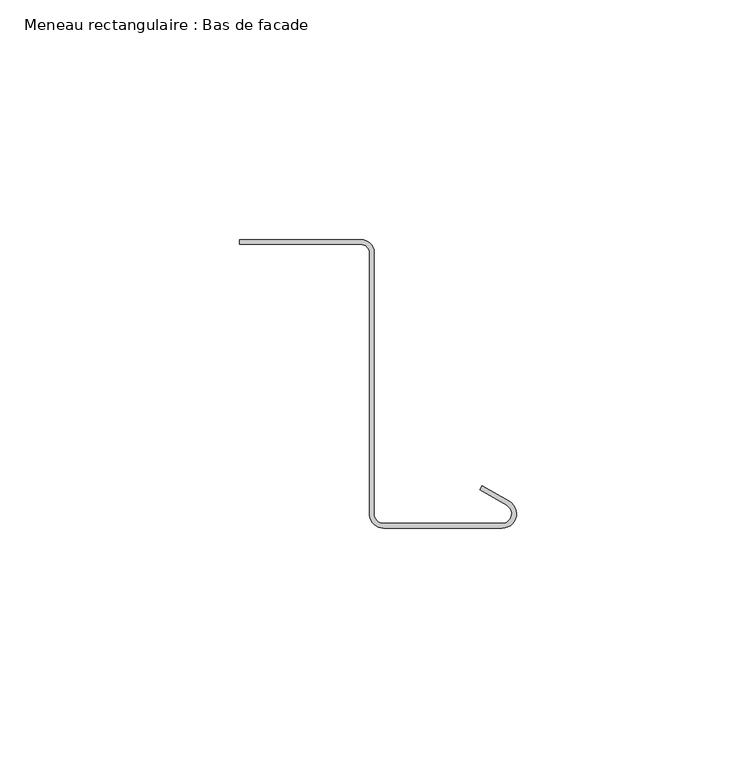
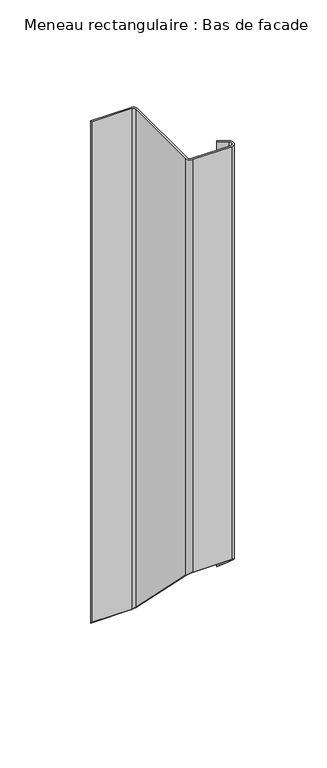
"""IFC4 building model written with IfcOpenShell, lengths in millimetres: member geometry, Meneau rectangulaire : Bas de facade."""

import ifcopenshell
import ifcopenshell.guid

model = None  # the IFC model being written
_history = None  # IfcOwnerHistory: only IFC2X3 demands one
_inside = {}  # id of a spatial element -> (the spatial element, [elements in it])
_under = {}  # id of a project, library or spatial element -> (it, [spatial elements below it])
_declared = {}  # id of a project -> (the project, [libraries it declares])
_typed = {}  # id of a type object -> (the type object, [elements of that type])
_made_of = {}  # id of a material, layer set ... -> (it, [elements and type objects made of it])


def new_model(schema):
    """Start an empty IFC model of exactly this schema.

    Asked for "IFC4X3", IfcOpenShell would pick the latest addendum, in which some entities
    have other attributes; the version numbers below select the first issue.
    IFC2X3 requires an IfcOwnerHistory on every rooted entity: one is made here for all.
    """
    global model, _history
    if schema == "IFC4X3":
        model = ifcopenshell.file(schema_version=(4, 3, 0, 0))
    else:
        model = ifcopenshell.file(schema=schema)
    _inside.clear()
    _under.clear()
    _declared.clear()
    _typed.clear()
    _made_of.clear()
    _history = None
    if model.schema == "IFC2X3":
        org = make("IfcOrganization", Name="unknown")
        user = make(
            "IfcPersonAndOrganization",
            ThePerson=make("IfcPerson", FamilyName="unknown"),
            TheOrganization=org,
        )
        app = make(
            "IfcApplication",
            ApplicationDeveloper=org,
            Version="unknown",
            ApplicationFullName="unknown",
            ApplicationIdentifier="unknown",
        )
        _history = make(
            "IfcOwnerHistory",
            OwningUser=user,
            OwningApplication=app,
            ChangeAction="ADDED",
            CreationDate=0,
        )
    return model


def make(cls, **values):
    """One entity of the class cls with the attributes given. An attribute that is None is left unset."""
    return model.create_entity(
        cls, **{name: value for name, value in values.items() if value is not None}
    )


def rooted(cls, **values):
    """An entity with a GlobalId (a new one), such as an element, a storey or a relation."""
    return make(cls, GlobalId=ifcopenshell.guid.new(), OwnerHistory=_history, **values)


def si_unit(unit_type, name, prefix=None):
    """IfcSIUnit, for example si_unit("LENGTHUNIT", "METRE", prefix="MILLI")."""
    return make("IfcSIUnit", UnitType=unit_type, Prefix=prefix, Name=name)


def assignment(units):
    """IfcUnitAssignment: the units of a project."""
    return None if units is None else make("IfcUnitAssignment", Units=units)


def point(xyz):
    """IfcCartesianPoint."""
    return None if xyz is None else make("IfcCartesianPoint", Coordinates=xyz)


def direction(xyz):
    """IfcDirection."""
    return None if xyz is None else make("IfcDirection", DirectionRatios=xyz)


def frame(location, z_axis=None, x_axis=None):
    """IfcAxis2Placement3D, a coordinate frame: its origin and axes. An axis left out is left unset."""
    return make(
        "IfcAxis2Placement3D",
        Location=point(location),
        Axis=direction(z_axis),
        RefDirection=direction(x_axis),
    )


def origin():
    """The frame at (0, 0, 0) with its axes left unset."""
    return frame((0.0, 0.0, 0.0))


def place(relative_to, where):
    """IfcLocalPlacement: puts the frame where relative to a parent placement (None: the world)."""
    return make(
        "IfcLocalPlacement", PlacementRelTo=relative_to, RelativePlacement=where
    )


def context(
    kind, dimensions, precision=None, world=None, true_north=None, identifier=None
):
    """IfcGeometricRepresentationContext, for example the 3D "Model" context."""
    return make(
        "IfcGeometricRepresentationContext",
        ContextIdentifier=identifier,
        ContextType=kind,
        CoordinateSpaceDimension=dimensions,
        Precision=precision,
        WorldCoordinateSystem=world,
        TrueNorth=true_north,
    )


def project(units=None, contexts=None):
    """IfcProject with its units and contexts."""
    return rooted(
        "IfcProject",
        Name="project",
        RepresentationContexts=contexts,
        UnitsInContext=assignment(units),
    )


def spatial(cls, under=None, at=None, **own):
    """A site, building, storey or space (cls), placed at a placement, below another one or the project."""
    s = rooted(cls, ObjectPlacement=at, **own)
    if under is not None:
        _under.setdefault(under.id(), (under, []))[1].append(s)
    return s


def polyline(points):
    """IfcPolyline through the points."""
    return make("IfcPolyline", Points=[point(p) for p in points])


def circle_curve(where, radius):
    """IfcCircle in the frame where."""
    return make("IfcCircle", Position=where, Radius=radius)


def ellipse_curve(where, semi_axis1, semi_axis2):
    """IfcEllipse in the frame where."""
    return make(
        "IfcEllipse", Position=where, SemiAxis1=semi_axis1, SemiAxis2=semi_axis2
    )


def shape(context_of_items, identifier, shape_type, items):
    """IfcShapeRepresentation: the items that make up one representation, for example the "Body"."""
    return make(
        "IfcShapeRepresentation",
        ContextOfItems=context_of_items,
        RepresentationIdentifier=identifier,
        RepresentationType=shape_type,
        Items=items,
    )


def source(mapping_origin, context_of_items, identifier, shape_type, items):
    """IfcRepresentationMap: a shape defined once, which mapped items show again and again."""
    return make(
        "IfcRepresentationMap",
        MappingOrigin=mapping_origin,
        MappedRepresentation=shape(context_of_items, identifier, shape_type, items),
    )


def transform(
    local_origin,
    x_axis=None,
    y_axis=None,
    z_axis=None,
    scale=None,
    scale2=None,
    scale3=None,
    uniform=True,
):
    """IfcCartesianTransformationOperator3D, or its non-uniform kind. x_axis, y_axis, z_axis: its Axis1, 2, 3."""
    if uniform:
        return make(
            "IfcCartesianTransformationOperator3D",
            Axis1=direction(x_axis),
            Axis2=direction(y_axis),
            LocalOrigin=point(local_origin),
            Scale=scale,
            Axis3=direction(z_axis),
        )
    return make(
        "IfcCartesianTransformationOperator3DnonUniform",
        Axis1=direction(x_axis),
        Axis2=direction(y_axis),
        LocalOrigin=point(local_origin),
        Scale=scale,
        Axis3=direction(z_axis),
        Scale2=scale2,
        Scale3=scale3,
    )


def mapped(mapping_source, mapping_target):
    """IfcMappedItem: shows the shape of a source again, moved by a transform."""
    return make(
        "IfcMappedItem", MappingSource=mapping_source, MappingTarget=mapping_target
    )


def made_of(thing, what):
    """Note that an element or type object is made of a material, layer set ...; save() writes the relation."""
    if what is not None:
        _made_of.setdefault(what.id(), (what, []))[1].append(thing)
    return thing


def element(
    cls,
    number,
    at=None,
    inside=None,
    cuts=None,
    type_object=None,
    material=None,
    context=None,
    identifier="Body",
    shape_type=None,
    held_by="IfcProductDefinitionShape",
    body=None,
    shapes=None,
    **own,
):
    """One element of the class cls, such as IfcWall. Its Tag is "e" and its number.

    at: its placement. inside: the storey or other place that contains it. cuts: it is an
    opening in that element (IfcRelVoidsElement). A single representation is given by context,
    identifier, shape_type and body (its items); several are given by shapes. held_by: the class
    of the entity that holds the representations. save() writes the other relations.
    """
    e = rooted(cls, Tag="e%d" % number, ObjectPlacement=at, **own)
    if body is not None:
        shapes = [shape(context, identifier, shape_type, body)]
    if shapes is not None:
        e.Representation = make(held_by, Representations=shapes)
    if inside is not None:
        _inside.setdefault(inside.id(), (inside, []))[1].append(e)
    if cuts is not None:
        rooted(
            "IfcRelVoidsElement", RelatingBuildingElement=cuts, RelatedOpeningElement=e
        )
    if type_object is not None:
        _typed.setdefault(type_object.id(), (type_object, []))[1].append(e)
    return made_of(e, material)


def aggregate(whole, parts):
    """IfcRelAggregates: a whole, such as a stair, and the parts it consists of."""
    return rooted("IfcRelAggregates", RelatingObject=whole, RelatedObjects=parts)


def save(model, path):
    """Write the relations noted so far, then the file.

    IfcRelAggregates (storeys below a building ...), IfcRelContainedInSpatialStructure (elements
    in a storey), IfcRelDefinesByType, IfcRelAssociatesMaterial and IfcRelDeclares: one each for
    every whole, place, type object, material and project.
    """
    for whole, parts in _under.values():
        aggregate(whole, parts)
    for where, things in _inside.values():
        rooted(
            "IfcRelContainedInSpatialStructure",
            RelatedElements=things,
            RelatingStructure=where,
        )
    for kind, things in _typed.values():
        rooted("IfcRelDefinesByType", RelatedObjects=things, RelatingType=kind)
    for what, things in _made_of.values():
        rooted("IfcRelAssociatesMaterial", RelatedObjects=things, RelatingMaterial=what)
    for by, libraries in _declared.values():
        rooted("IfcRelDeclares", RelatingContext=by, RelatedDefinitions=libraries)
    model.write(path)


def plane_surface(at):
    """IfcPlane: the flat surface through the origin of the frame at, square to its z axis."""
    return make("IfcPlane", Position=at)


def cylinder_surface(at, radius):
    """IfcCylindricalSurface: all points at the distance radius from the z axis of the frame at."""
    return make("IfcCylindricalSurface", Position=at, Radius=radius)


def revolved_surface(curve, axis_point, axis_direction):
    """IfcSurfaceOfRevolution: the curve turned about the line through axis_point along axis_direction."""
    return make(
        "IfcSurfaceOfRevolution",
        SweptCurve=make("IfcArbitraryOpenProfileDef", ProfileType="CURVE", Curve=curve),
        AxisPosition=make("IfcAxis1Placement", Location=point(axis_point), Axis=direction(axis_direction)),
    )


def advanced_brep(points, edges, surfaces, faces):
    """IfcAdvancedBrep: a solid bounded by faces that lie on surfaces and meet in shared edges.

    An edge is (start, end): straight between two places in points (the first is 0);
    or (start, end, curve); or (start, end, curve, False) where it runs against its curve.
    A face is (place in surfaces, loops), or (place, loops, False) where it looks against
    its surface's normal. A loop lists edges by number (the first is 1), with a minus sign
    where the edge is run from its end to its start. The first loop is the outer one.
    """
    corners = [point(p) for p in points]
    vertices = [make("IfcVertexPoint", VertexGeometry=c) for c in corners]
    made = []
    for start, end, *more in edges:
        made.append(
            make(
                "IfcEdgeCurve",
                EdgeStart=vertices[start],
                EdgeEnd=vertices[end],
                EdgeGeometry=more[0] if more else make("IfcPolyline", Points=[corners[start], corners[end]]),
                SameSense=more[1] if len(more) > 1 else True,
            )
        )
    hull = []
    for where, loops, *sense in faces:
        bounds = []
        for j, loop in enumerate(loops):
            ring = [make("IfcOrientedEdge", EdgeElement=made[abs(k) - 1], Orientation=k > 0) for k in loop]
            bounds.append(
                make(
                    "IfcFaceOuterBound" if j == 0 else "IfcFaceBound",
                    Bound=make("IfcEdgeLoop", EdgeList=ring),
                    Orientation=True,
                )
            )
        hull.append(make("IfcAdvancedFace", Bounds=bounds, FaceSurface=surfaces[where], SameSense=sense[0] if sense else True))
    return make("IfcAdvancedBrep", Outer=make("IfcClosedShell", CfsFaces=hull))


def meneau_rectangulaire_bas_de_facade_49befa15(model_context):
    return source(origin(), model_context, "Body", "AdvancedBrep", [
        advanced_brep(
        [(-32.4584179, 2.9588923, 0.0), (-57.8548383, 2.9588923, 0.0), (-57.8548383, 1.9588923, 0.0), (-32.4584179, 1.9588923, 0.0), (-30.7239521, 0.4415475, 0.0), (-30.7239521, -54.522067, 0.0), (-27.735368, -57.2605998, 0.0), (-3.0, -57.2605998, 0.0), (-1.5, -51.6625235, 0.0), (-7.1638061, -48.3925235, 0.0), (-7.6638061, -49.258549, 0.0), (-2.0, -52.528549, 0.0), (-3.0, -56.2605998, 0.0), (-27.735368, -56.2605998, 0.0), (-29.7143802, -54.5495817, 0.0), (-29.7143802, 0.3898824, 0.0), (-32.4584179, 2.9588923, -337.9588923), (-57.8548383, 2.9588923, -337.9588923), (-57.8548383, 1.9588923, -336.9588923), (-32.4584179, 1.9588923, -336.9588923), (-30.7239521, 0.4415475, -335.4415475), (-30.7239521, -54.522067, -280.477933), (-27.735368, -57.2605998, -277.7394002), (-3.0, -57.2605998, -277.7394002), (-1.5, -51.6625235, -283.3374765), (-7.1638061, -48.3925235, -286.6074765), (-7.6638061, -49.258549, -285.741451), (-2.0, -52.528549, -282.471451), (-3.0, -56.2605998, -278.7394002), (-27.735368, -56.2605998, -278.7394002), (-29.7143802, -54.5495817, -280.4504183), (-29.7143802, 0.3898824, -335.3898824)],
        [
            (0, 1),
            (1, 2),
            (2, 3),
            (3, 4, circle_curve(frame((-32.4584179, 0.2088923, 0.0), z_axis=(0.0, 0.0, -1.0), x_axis=(0.0, 1.0, 0.0)), 1.75)),
            (4, 5),
            (5, 6, circle_curve(frame((-27.735368, -54.2605998, 0.0), z_axis=(0.0, 0.0, 1.0), x_axis=(-0.9961946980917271, -0.08715574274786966, 0.0)), 3.0)),
            (6, 7),
            (7, 8, circle_curve(frame((-3.0, -54.2605998, 0.0), z_axis=(0.0, 0.0, 1.0), x_axis=(0.0, -1.0, 0.0)), 3.0)),
            (8, 9),
            (9, 10),
            (10, 11),
            (11, 12, circle_curve(frame((-3.0, -54.2605998, 0.0), z_axis=(0.0, 0.0, -1.0), x_axis=(0.0, -1.0, 0.0)), 2.0)),
            (12, 13),
            (13, 14, circle_curve(frame((-27.735368, -54.2605998, 0.0), z_axis=(0.0, 0.0, -1.0), x_axis=(-0.9961946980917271, -0.08715574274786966, 0.0)), 2.0)),
            (14, 15),
            (15, 0, circle_curve(frame((-32.4584179, 0.2088923, 0.0), z_axis=(0.0, 0.0, 1.0), x_axis=(0.0, 1.0, 0.0)), 2.75)),
            (0, 16),
            (16, 17),
            (17, 1),
            (17, 18),
            (18, 2),
            (18, 19),
            (19, 3),
            (19, 20, ellipse_curve(frame((-32.4584179, 0.2088923, -335.2088923), z_axis=(0.0, -0.7071067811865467, -0.7071067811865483), x_axis=(0.0, 0.7071067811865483, -0.7071067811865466)), 2.4748737, 1.75)),
            (20, 4),
            (20, 21),
            (21, 5),
            (21, 22, ellipse_curve(frame((-27.735368, -54.2605998, -280.7394002), z_axis=(0.0, 0.7071067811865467, 0.7071067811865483), x_axis=(0.0, -0.7071067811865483, 0.7071067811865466)), 4.2426407, 3.0)),
            (22, 6),
            (22, 23),
            (23, 7),
            (23, 24, ellipse_curve(frame((-3.0, -54.2605998, -280.7394002), z_axis=(0.0, 0.7071067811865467, 0.7071067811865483), x_axis=(0.0, -0.7071067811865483, 0.7071067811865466)), 4.2426407, 3.0)),
            (24, 8),
            (24, 25),
            (25, 9),
            (25, 26),
            (26, 10),
            (26, 27),
            (27, 11),
            (27, 28, ellipse_curve(frame((-3.0, -54.2605998, -280.7394002), z_axis=(0.0, -0.7071067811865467, -0.7071067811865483), x_axis=(0.0, 0.7071067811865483, -0.7071067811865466)), 2.8284271, 2.0)),
            (28, 12),
            (28, 29),
            (29, 13),
            (29, 30, ellipse_curve(frame((-27.735368, -54.2605998, -280.7394002), z_axis=(0.0, -0.7071067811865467, -0.7071067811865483), x_axis=(0.0, 0.7071067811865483, -0.7071067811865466)), 2.8284271, 2.0)),
            (30, 14),
            (30, 31),
            (31, 15),
            (31, 16, ellipse_curve(frame((-32.4584179, 0.2088923, -335.2088923), z_axis=(0.0, 0.7071067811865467, 0.7071067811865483), x_axis=(0.0, -0.7071067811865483, 0.7071067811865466)), 3.8890873, 2.75)),
        ],
        [
            plane_surface(frame((0.0, -63.8351035, 0.0), z_axis=(0.0, 0.0, 1.0), x_axis=(-1.0, 0.0, 0.0))),
            plane_surface(frame((-32.4584179, 2.9588923, 0.0), z_axis=(0.0, 1.0, 0.0), x_axis=(0.0, 0.0, -1.0))),
            plane_surface(frame((-57.8548383, 2.9588923, 0.0), z_axis=(-1.0, 0.0, 0.0), x_axis=(0.0, 0.0, -1.0))),
            plane_surface(frame((-57.8548383, 1.9588923, 0.0), z_axis=(0.0, -1.0, 0.0), x_axis=(0.0, 0.0, -1.0))),
            revolved_surface(polyline([(-32.4584179, 1.9588923, -336.9588923), (-32.4584179, 1.9588923, 0.0)]), (-32.4584179, 0.2088923, 0.0), (0.0, 0.0, -1.0)),
            plane_surface(frame((-30.7239521, 0.4415475, 0.0), z_axis=(-1.0, 0.0, 0.0), x_axis=(0.0, 0.0, -1.0))),
            cylinder_surface(frame((-27.735368, -54.2605998, 0.0), z_axis=(0.0, 0.0, 1.0000000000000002), x_axis=(-0.9961946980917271, -0.08715574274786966, 0.0)), 3.0),
            plane_surface(frame((-27.735368, -57.2605998, 0.0), z_axis=(0.0, -1.0, 0.0), x_axis=(0.0, 0.0, -1.0))),
            cylinder_surface(frame((-3.0, -54.2605998, 0.0), z_axis=(0.0, 0.0, 1.0), x_axis=(0.0, -1.0, 0.0)), 3.0),
            plane_surface(frame((-1.5, -51.6625235, 0.0), z_axis=(0.5000000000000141, 0.8660254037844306, 0.0), x_axis=(0.0, 0.0, -1.0))),
            plane_surface(frame((-7.1638061, -48.3925235, 0.0), z_axis=(-0.8660254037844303, 0.5000000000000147, 0.0), x_axis=(0.0, 0.0, -1.0))),
            plane_surface(frame((-7.6638061, -49.258549, 0.0), z_axis=(-0.500000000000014, -0.8660254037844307, 0.0), x_axis=(0.0, 0.0, -1.0))),
            revolved_surface(polyline([(-3.0, -56.2605998, -282.73940018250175), (-3.0, -56.2605998, 0.0)]), (-3.0, -54.2605998, 0.0), (0.0, 0.0, -1.0)),
            plane_surface(frame((-3.0, -56.2605998, 0.0), z_axis=(0.0, 1.0, 0.0), x_axis=(0.0, 0.0, -1.0))),
            revolved_surface(polyline([(-29.727757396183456, -54.434911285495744, -282.73940018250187), (-29.727757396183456, -54.434911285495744, 0.0)]), (-27.735368, -54.2605998, 0.0), (0.0, 0.0, -1.0000000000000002)),
            plane_surface(frame((-29.7143802, -54.5495817, 0.0), z_axis=(1.0, 0.0, 0.0), x_axis=(0.0, 0.0, -1.0))),
            cylinder_surface(frame((-32.4584179, 0.2088923, 0.0), z_axis=(0.0, 0.0, 1.0), x_axis=(0.0, 1.0, 0.0)), 2.75),
            plane_surface(frame((304.8, 0.0, -335.0), z_axis=(0.0, -0.7071067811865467, -0.7071067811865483), x_axis=(0.0, -0.7071067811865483, 0.7071067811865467))),
        ],
        [
            (0, [[1, 2, 3, 4, 5, 6, 7, 8, 9, 10, 11, 12, 13, 14, 15, 16]]),
            (1, [[-1, 17, 18, 19]]),
            (2, [[-2, -19, 20, 21]]),
            (3, [[-3, -21, 22, 23]]),
            (4, [[-4, -23, 24, 25]]),
            (5, [[-5, -25, 26, 27]]),
            (6, [[-6, -27, 28, 29]]),
            (7, [[-7, -29, 30, 31]]),
            (8, [[-8, -31, 32, 33]]),
            (9, [[-9, -33, 34, 35]]),
            (10, [[-10, -35, 36, 37]]),
            (11, [[-11, -37, 38, 39]]),
            (12, [[-12, -39, 40, 41]]),
            (13, [[-13, -41, 42, 43]]),
            (14, [[-14, -43, 44, 45]]),
            (15, [[-15, -45, 46, 47]]),
            (16, [[-16, -47, 48, -17]]),
            (17, [[-48, -46, -44, -42, -40, -38, -36, -34, -32, -30, -28, -26, -24, -22, -20, -18]]),
        ],
    ),
    ])


if __name__ == "__main__":
    model = new_model("IFC4")
    model_context = context("Model", 3, world=origin())
    ifc_project = project(units=[si_unit("LENGTHUNIT", "METRE", prefix="MILLI")], contexts=[model_context])
    site = spatial("IfcSite", under=ifc_project)
    building = spatial("IfcBuilding", under=site)
    placement = place(None, origin())
    meneau_rectangulaire_bas_de_facade_shape = meneau_rectangulaire_bas_de_facade_49befa15(model_context)
    element("IfcMember", 1, ObjectType="Meneau rectangulaire : Bas de facade", at=placement, inside=building, context=model_context, shape_type="MappedRepresentation", body=[
        mapped(meneau_rectangulaire_bas_de_facade_shape, transform((0.0, 0.0, 0.0), x_axis=(1.0, 0.0, 0.0), y_axis=(0.0, 1.0, 0.0), z_axis=(0.0, 0.0, 1.0))),
    ])
    save(model, "model.ifc")
